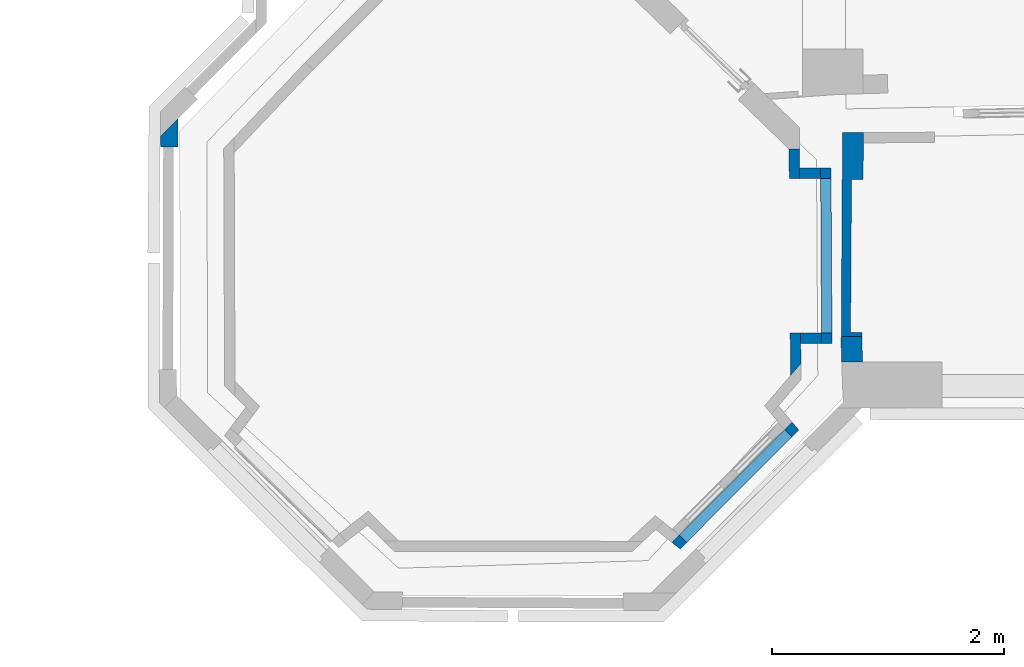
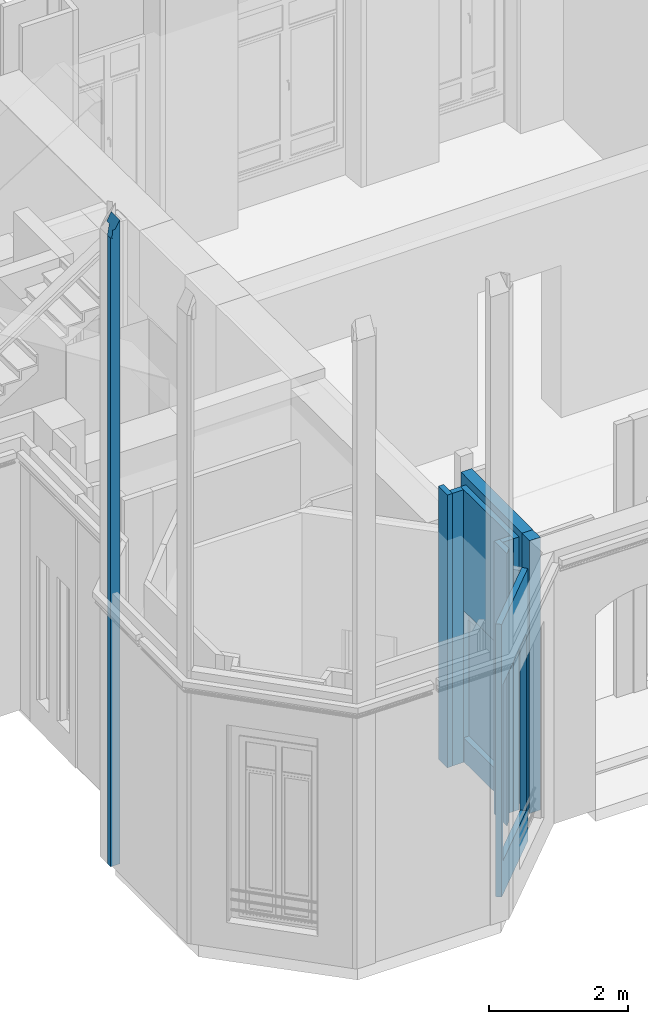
# One storey, part 5 of 97: 9 walls, 5 openings.
"""IFC2X3 building model written with IfcOpenShell, lengths in centimetres."""

import ifcopenshell
import ifcopenshell.guid

model = None  # the IFC model being written
_history = None  # IfcOwnerHistory: only IFC2X3 demands one
_inside = {}  # id of a spatial element -> (the spatial element, [elements in it])
_under = {}  # id of a project, library or spatial element -> (it, [spatial elements below it])
_declared = {}  # id of a project -> (the project, [libraries it declares])
_typed = {}  # id of a type object -> (the type object, [elements of that type])
_made_of = {}  # id of a material, layer set ... -> (it, [elements and type objects made of it])


def new_model(schema):
    """Start an empty IFC model of exactly this schema.

    Asked for "IFC4X3", IfcOpenShell would pick the latest addendum, in which some entities
    have other attributes; the version numbers below select the first issue.
    IFC2X3 requires an IfcOwnerHistory on every rooted entity: one is made here for all.
    """
    global model, _history
    if schema == "IFC4X3":
        model = ifcopenshell.file(schema_version=(4, 3, 0, 0))
    else:
        model = ifcopenshell.file(schema=schema)
    _inside.clear()
    _under.clear()
    _declared.clear()
    _typed.clear()
    _made_of.clear()
    _history = None
    if model.schema == "IFC2X3":
        org = make("IfcOrganization", Name="unknown")
        user = make(
            "IfcPersonAndOrganization",
            ThePerson=make("IfcPerson", FamilyName="unknown"),
            TheOrganization=org,
        )
        app = make(
            "IfcApplication",
            ApplicationDeveloper=org,
            Version="unknown",
            ApplicationFullName="unknown",
            ApplicationIdentifier="unknown",
        )
        _history = make(
            "IfcOwnerHistory",
            OwningUser=user,
            OwningApplication=app,
            ChangeAction="ADDED",
            CreationDate=0,
        )
    return model


def make(cls, **values):
    """One entity of the class cls with the attributes given. An attribute that is None is left unset."""
    return model.create_entity(
        cls, **{name: value for name, value in values.items() if value is not None}
    )


def entity(cls, *values):
    """Any entity or typed value of the class cls, its attributes in the order of the schema. None: left unset."""
    e = model.create_entity(cls)
    for i, value in enumerate(values):
        if value is not None:
            e[i] = value
    return e


def rooted(cls, **values):
    """An entity with a GlobalId (a new one), such as an element, a storey or a relation."""
    return make(cls, GlobalId=ifcopenshell.guid.new(), OwnerHistory=_history, **values)


def si_unit(unit_type, name, prefix=None):
    """IfcSIUnit, for example si_unit("LENGTHUNIT", "METRE", prefix="MILLI")."""
    return make("IfcSIUnit", UnitType=unit_type, Prefix=prefix, Name=name)


def converted_unit(unit_type, name, factor, base, dimensions=None, offset=None):
    """IfcConversionBasedUnit, such as the inch: factor (a typed value) times the base unit."""
    return make(
        "IfcConversionBasedUnit"
        if offset is None
        else "IfcConversionBasedUnitWithOffset",
        ConversionOffset=offset,
        Dimensions=None
        if dimensions is None
        else entity("IfcDimensionalExponents", *dimensions),
        UnitType=unit_type,
        Name=name,
        ConversionFactor=make(
            "IfcMeasureWithUnit", ValueComponent=factor, UnitComponent=base
        ),
    )


def assignment(units):
    """IfcUnitAssignment: the units of a project."""
    return None if units is None else make("IfcUnitAssignment", Units=units)


def point(xyz):
    """IfcCartesianPoint."""
    return None if xyz is None else make("IfcCartesianPoint", Coordinates=xyz)


def direction(xyz):
    """IfcDirection."""
    return None if xyz is None else make("IfcDirection", DirectionRatios=xyz)


def frame(location, z_axis=None, x_axis=None):
    """IfcAxis2Placement3D, a coordinate frame: its origin and axes. An axis left out is left unset."""
    return make(
        "IfcAxis2Placement3D",
        Location=point(location),
        Axis=direction(z_axis),
        RefDirection=direction(x_axis),
    )


def frame_2d(location, x_axis=None):
    """IfcAxis2Placement2D, a coordinate frame in the plane: its origin and x axis."""
    return make(
        "IfcAxis2Placement2D", Location=point(location), RefDirection=direction(x_axis)
    )


def origin():
    """The frame at (0, 0, 0) with its axes left unset."""
    return frame((0.0, 0.0, 0.0))


def origin_with_axes():
    """The frame at (0, 0, 0) with the z axis (0, 0, 1) and the x axis (1, 0, 0) written out."""
    return frame((0.0, 0.0, 0.0), z_axis=(0.0, 0.0, 1.0), x_axis=(1.0, 0.0, 0.0))


def origin_2d_with_axis():
    """The frame at (0, 0) in the plane with the x axis (1, 0) written out."""
    return frame_2d((0.0, 0.0), x_axis=(1.0, 0.0))


def place(relative_to, where):
    """IfcLocalPlacement: puts the frame where relative to a parent placement (None: the world)."""
    return make(
        "IfcLocalPlacement", PlacementRelTo=relative_to, RelativePlacement=where
    )


def context(
    kind, dimensions, precision=None, world=None, true_north=None, identifier=None
):
    """IfcGeometricRepresentationContext, for example the 3D "Model" context."""
    return make(
        "IfcGeometricRepresentationContext",
        ContextIdentifier=identifier,
        ContextType=kind,
        CoordinateSpaceDimension=dimensions,
        Precision=precision,
        WorldCoordinateSystem=world,
        TrueNorth=true_north,
    )


def subcontext(parent, identifier, kind, view, scale=None):
    """IfcGeometricRepresentationSubContext, for example "Body" below "Model"."""
    return make(
        "IfcGeometricRepresentationSubContext",
        ContextIdentifier=identifier,
        ContextType=kind,
        ParentContext=parent,
        TargetScale=scale,
        TargetView=view,
    )


def project(units=None, contexts=None):
    """IfcProject with its units and contexts."""
    return rooted(
        "IfcProject",
        Name="project",
        RepresentationContexts=contexts,
        UnitsInContext=assignment(units),
    )


def spatial(cls, under=None, at=None, **own):
    """A site, building, storey or space (cls), placed at a placement, below another one or the project."""
    s = rooted(cls, ObjectPlacement=at, **own)
    if under is not None:
        _under.setdefault(under.id(), (under, []))[1].append(s)
    return s


def polyline(points):
    """IfcPolyline through the points."""
    return make("IfcPolyline", Points=[point(p) for p in points])


def profile(cls, at=None, kind="AREA", **sizes):
    """A parametric profile (cls). Its sizes go by their IFC names, for example OverallWidth=200.0."""
    return make(cls, ProfileType=kind, Position=at, **sizes)


def rectangle(**sizes):
    """IfcRectangleProfileDef."""
    return profile("IfcRectangleProfileDef", **sizes)


def outline(outer, holes=None, kind="AREA"):
    """IfcArbitraryClosedProfileDef: a profile drawn as a closed curve; with holes, ...WithVoids."""
    if holes is None:
        return make("IfcArbitraryClosedProfileDef", ProfileType=kind, OuterCurve=outer)
    return make(
        "IfcArbitraryProfileDefWithVoids",
        ProfileType=kind,
        OuterCurve=outer,
        InnerCurves=holes,
    )


def extrude(swept, where, along, depth):
    """IfcExtrudedAreaSolid: the profile swept, set in the frame where, extruded along a direction by depth."""
    return make(
        "IfcExtrudedAreaSolid",
        SweptArea=swept,
        Position=where,
        ExtrudedDirection=direction(along),
        Depth=depth,
    )


def clip(a, b, op="DIFFERENCE"):
    """IfcBooleanClippingResult: the solid a cut by the half space b."""
    return make(
        "IfcBooleanClippingResult", Operator=op, FirstOperand=a, SecondOperand=b
    )


def bounded_halfspace(plane, agree, where, boundary):
    """IfcPolygonalBoundedHalfSpace: a half space limited to a polygon's prism."""
    return make(
        "IfcPolygonalBoundedHalfSpace",
        BaseSurface=make("IfcPlane", Position=plane),
        AgreementFlag=agree,
        Position=where,
        PolygonalBoundary=boundary,
    )


def faces_of(points, faces, orient=None, outer=None):
    """IfcFace entities. A face is a list of loops; a loop is a list of indices into points, from 0.

    orient and outer hold one flag for each loop. By default every Orientation is true, the
    first loop of a face is its IfcFaceOuterBound and the others are IfcFaceBound.
    """
    made = []
    for i, loops in enumerate(faces):
        bounds = []
        for j, loop in enumerate(loops):
            is_outer = j == 0 if outer is None else outer[i][j]
            bounds.append(
                make(
                    "IfcFaceOuterBound" if is_outer else "IfcFaceBound",
                    Bound=make("IfcPolyLoop", Polygon=[points[k] for k in loop]),
                    Orientation=True if orient is None else orient[i][j],
                )
            )
        made.append(make("IfcFace", Bounds=bounds))
    return made


def faceted_brep(points, faces, orient=None, outer=None, voids=None):
    """IfcFacetedBrep: a solid bounded by flat faces; with voids (closed shells), ...WithVoids."""
    shared = [point(p) for p in points]
    hull = make("IfcClosedShell", CfsFaces=faces_of(shared, faces, orient, outer))
    if voids is None:
        return make("IfcFacetedBrep", Outer=hull)
    return make(
        "IfcFacetedBrepWithVoids",
        Outer=hull,
        Voids=[
            make(cls, CfsFaces=faces_of(shared, fs, o, b)) for cls, fs, o, b in voids
        ],
    )


def shape(context_of_items, identifier, shape_type, items):
    """IfcShapeRepresentation: the items that make up one representation, for example the "Body"."""
    return make(
        "IfcShapeRepresentation",
        ContextOfItems=context_of_items,
        RepresentationIdentifier=identifier,
        RepresentationType=shape_type,
        Items=items,
    )


def material(Name=None, Category=None):
    """IfcMaterial."""
    return make("IfcMaterial", Name=Name, Category=Category)


def layer(
    of_material, thickness, ventilated=None, Name=None, Category=None, Priority=None
):
    """IfcMaterialLayer: one layer of a wall or slab, of a material (None: an air gap)."""
    return make(
        "IfcMaterialLayer",
        Material=of_material,
        LayerThickness=thickness,
        IsVentilated=ventilated,
        Name=Name,
        Category=Category,
        Priority=Priority,
    )


def layer_set(layers, Name=None):
    """IfcMaterialLayerSet."""
    return make("IfcMaterialLayerSet", MaterialLayers=layers, LayerSetName=Name)


def layer_usage(for_layer_set, set_direction, sense, offset, extent=None):
    """IfcMaterialLayerSetUsage: how a layer set lies in its element."""
    return make(
        "IfcMaterialLayerSetUsage",
        ForLayerSet=for_layer_set,
        LayerSetDirection=set_direction,
        DirectionSense=sense,
        OffsetFromReferenceLine=offset,
        ReferenceExtent=extent,
    )


def made_of(thing, what):
    """Note that an element or type object is made of a material, layer set ...; save() writes the relation."""
    if what is not None:
        _made_of.setdefault(what.id(), (what, []))[1].append(thing)
    return thing


def type_object(cls, material=None, **own):
    """A type object (cls), such as IfcWallType, which elements share."""
    return made_of(rooted(cls, **own), material)


def element(
    cls,
    number,
    at=None,
    inside=None,
    cuts=None,
    type_object=None,
    material=None,
    context=None,
    identifier="Body",
    shape_type=None,
    held_by="IfcProductDefinitionShape",
    body=None,
    shapes=None,
    **own,
):
    """One element of the class cls, such as IfcWall. Its Tag is "e" and its number.

    at: its placement. inside: the storey or other place that contains it. cuts: it is an
    opening in that element (IfcRelVoidsElement). A single representation is given by context,
    identifier, shape_type and body (its items); several are given by shapes. held_by: the class
    of the entity that holds the representations. save() writes the other relations.
    """
    e = rooted(cls, Tag="e%d" % number, ObjectPlacement=at, **own)
    if body is not None:
        shapes = [shape(context, identifier, shape_type, body)]
    if shapes is not None:
        e.Representation = make(held_by, Representations=shapes)
    if inside is not None:
        _inside.setdefault(inside.id(), (inside, []))[1].append(e)
    if cuts is not None:
        rooted(
            "IfcRelVoidsElement", RelatingBuildingElement=cuts, RelatedOpeningElement=e
        )
    if type_object is not None:
        _typed.setdefault(type_object.id(), (type_object, []))[1].append(e)
    return made_of(e, material)


def aggregate(whole, parts):
    """IfcRelAggregates: a whole, such as a stair, and the parts it consists of."""
    return rooted("IfcRelAggregates", RelatingObject=whole, RelatedObjects=parts)


def save(model, path):
    """Write the relations noted so far, then the file.

    IfcRelAggregates (storeys below a building ...), IfcRelContainedInSpatialStructure (elements
    in a storey), IfcRelDefinesByType, IfcRelAssociatesMaterial and IfcRelDeclares: one each for
    every whole, place, type object, material and project.
    """
    for whole, parts in _under.values():
        aggregate(whole, parts)
    for where, things in _inside.values():
        rooted(
            "IfcRelContainedInSpatialStructure",
            RelatedElements=things,
            RelatingStructure=where,
        )
    for kind, things in _typed.values():
        rooted("IfcRelDefinesByType", RelatedObjects=things, RelatingType=kind)
    for what, things in _made_of.values():
        rooted("IfcRelAssociatesMaterial", RelatedObjects=things, RelatingMaterial=what)
    for by, libraries in _declared.values():
        rooted("IfcRelDeclares", RelatingContext=by, RelatedDefinitions=libraries)
    model.write(path)


model = new_model("IFC2X3")

# Units and contexts
model_context = context("Model", 3, precision=0.0001, world=origin(), true_north=direction((0.225632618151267, 0.974212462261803, 0.0)))
body_context = subcontext(model_context, "Body", "Model", "MODEL_VIEW")
footprint_context = subcontext(model_context, "FootPrint", "Model", "MODEL_VIEW")
profile_context = subcontext(model_context, "Profile", "Model", "MODEL_VIEW")
ifc_project = project(units=[si_unit("LENGTHUNIT", "METRE", prefix="CENTI"), si_unit("AREAUNIT", "SQUARE_METRE", prefix="CENTI"), si_unit("VOLUMEUNIT", "CUBIC_METRE", prefix="CENTI"), converted_unit("PLANEANGLEUNIT", "DEGREE", entity("IfcRatioMeasure", 0.0174532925), si_unit("PLANEANGLEUNIT", "RADIAN"), dimensions=[0, 0, 0, 0, 0, 0, 0])], contexts=[model_context])

# Site, building, storey
site_placement = place(None, origin_with_axes())
site = spatial("IfcSite", under=ifc_project, at=site_placement, Name="Default Site", CompositionType="ELEMENT")
building_placement = place(site_placement, origin_with_axes())
building = spatial("IfcBuilding", under=site, at=building_placement, Name="Default Building", CompositionType="ELEMENT")
storey_placement = place(building_placement, origin_with_axes())
storey = spatial("IfcBuildingStorey", under=building, at=storey_placement, Name="Rez-de-chaussée", CompositionType="ELEMENT", Elevation=0.0)

# Walls
ifc_material = material(Name="<aucun>")
ifc_layer_1 = layer(ifc_material, 9.0)
ifc_layer_set_1 = layer_set([ifc_layer_1], Name="default")
ifc_layer_usage_1 = layer_usage(ifc_layer_set_1, "AXIS2", "POSITIVE", -4.5)
wall_type_1 = type_object("IfcWallType", Name="default 90", PredefinedType="NOTDEFINED", material=ifc_layer_set_1)
wall_1_placement = place(storey_placement, frame((-716.592523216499, -773.118793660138, 0.0128503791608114), z_axis=(0.0, 0.0, 1.0), x_axis=(-0.00596125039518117, 0.999982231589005, 0.0)))
element("IfcWallStandardCase", 1, at=wall_1_placement, inside=storey, type_object=wall_type_1, material=ifc_layer_usage_1, Name="Enveloppe 664477", context=body_context, shape_type="Clipping", body=[
    clip(extrude(rectangle(XDim=9.00000011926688, YDim=25.7717110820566, at=origin_2d_with_axis()), frame((12.8821925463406, 0.0, -2.71050543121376e-18), z_axis=(0.0, 0.0, 1.0), x_axis=(0.000162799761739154, -0.999999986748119, 0.0)), (0.0, 0.0, 1.0), 477.795358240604), bounded_halfspace(frame((25.5227095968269, 4.50000000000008, 397.095358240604), z_axis=(0.0, 0.0, 1.0), x_axis=(1.0, -7.74918323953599e-14, 0.0)), True, frame((25.5227095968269, 4.50000000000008, 397.095358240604), z_axis=(0.0, 0.0, 1.0), x_axis=(1.0, 0.0, 0.0)), polyline([(-8.82222604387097, -9.00000000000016), (0.0, 0.0), (0.244605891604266, 8.88178419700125e-14), (0.244605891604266, -8.99999999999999), (-8.82222604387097, -9.00000000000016)]))),
])
ifc_layer_usage_2 = layer_usage(ifc_layer_set_1, "AXIS2", "POSITIVE", -4.5)
wall_2_placement = place(storey_placement, frame((-721.117558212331, -768.650084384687, 0.0128503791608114), z_axis=(0.0, 0.0, 1.0), x_axis=(0.999981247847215, 0.00612404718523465, 0.0)))
element("IfcWallStandardCase", 2, at=wall_2_placement, inside=storey, type_object=wall_type_1, material=ifc_layer_usage_2, Name="Enveloppe 664554", context=body_context, shape_type="SweptSolid", body=[
    extrude(rectangle(XDim=18.0000002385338, YDim=9.00000011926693, at=origin_2d_with_axis()), frame((17.9983157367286, -1.77635683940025e-13, 0.0), z_axis=(0.0, 0.0, 1.0), x_axis=(1.0, -1.01429281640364e-14, 0.0)), (0.0, 0.0, 1.0), 477.795358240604),
])
ifc_layer_usage_3 = layer_usage(ifc_layer_set_1, "AXIS2", "POSITIVE", -4.5)
wall_3_placement = place(storey_placement, frame((-720.271870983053, -910.794206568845, 0.0128503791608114), z_axis=(0.0, 0.0, 1.0), x_axis=(0.999982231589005, 0.00596125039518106, 0.0)))
element("IfcWallStandardCase", 3, at=wall_3_placement, inside=storey, type_object=wall_type_1, material=ifc_layer_usage_3, Name="Enveloppe 664761", context=body_context, shape_type="SweptSolid", body=[
    extrude(rectangle(XDim=17.9999999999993, YDim=9.00000000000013, at=origin_2d_with_axis()), frame((18.0, 3.5527136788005e-13, -2.71050543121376e-18), z_axis=(0.0, 0.0, 1.0), x_axis=(1.0, 3.22658566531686e-16, 0.0)), (0.0, 0.0, 1.0), 477.795358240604),
])

# Wall, openings
ifc_layer_usage_4 = layer_usage(ifc_layer_set_1, "AXIS2", "POSITIVE", -4.5)
wall_4_placement = place(storey_placement, frame((-688.772430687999, -910.606427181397, 0.0128503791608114), z_axis=(0.0, 0.0, 1.0), x_axis=(-0.00596125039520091, 0.999982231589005, 0.0)))
wall_4 = element("IfcWallStandardCase", 4, at=wall_4_placement, inside=storey, type_object=wall_type_1, material=ifc_layer_usage_4, Name="Enveloppe 664555", context=body_context, shape_type="SweptSolid", body=[
    extrude(rectangle(XDim=8.99999999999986, YDim=151.151033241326, at=origin_2d_with_axis()), frame((71.075516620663, -1.24344978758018e-12, -2.71050543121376e-18), z_axis=(0.0, 0.0, 1.0), x_axis=(-3.9415519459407e-14, -1.0, 0.0)), (0.0, 0.0, 1.0), 477.795358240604),
])
opening_1_placement = place(wall_4_placement, frame((4.50000000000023, 0.0, 4.9960036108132e-14), z_axis=(0.0, 0.0, 1.0), x_axis=(1.0, -1.96596211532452e-14, 0.0)))
cartesian_point_1 = entity("IfcCartesianPoint", [-1.77635683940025e-13, 0.0, 43.0])
cartesian_point_2 = entity("IfcCartesianPoint", [133.151005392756, 4.4999999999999])
element("IfcOpeningElement", 5, at=opening_1_placement, cuts=wall_4, Name="Baie 41618", ObjectType="Recess", shapes=[
    shape(body_context, "Body", "Brep", [faceted_brep([(-1.72858031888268e-05, 24.4999767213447, 43.0000010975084), (133.151019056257, 24.4999767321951, 43.0000010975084), (133.151019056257, 24.4999767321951, -4.62657695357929e-10), (-1.72858031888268e-05, 24.4999767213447, -4.62657695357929e-10), (-1.72840919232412e-05, 3.49998105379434, -4.62657695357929e-10), (-1.72840919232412e-05, 3.49998105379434, 43.0000010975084), (133.151019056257, 24.500020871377, -4.62657695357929e-10), (133.151002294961, 3.49997780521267, -4.62657695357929e-10), (1.39200231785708e-05, 3.49998105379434, -4.62657695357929e-10), (133.151019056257, 24.500020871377, 43.0000010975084), (133.151019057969, 3.49997780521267, 43.0000010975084), (133.151019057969, 3.49997780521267, -4.62657695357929e-10), (1.39200231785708e-05, 3.49998105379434, 43.0000010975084), (133.151002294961, 3.49997780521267, 43.0000010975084), (133.151002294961, 3.49998106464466, -4.62657695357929e-10), (133.151002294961, 3.49998106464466, 43.0000010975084)], [[[0, 1, 2, 3]], [[3, 4, 5, 0]], [[6, 7, 8, 3]], [[9, 10, 11, 6]], [[0, 12, 13, 9]], [[12, 8, 14, 15]]])]),
    shape(profile_context, "Profile", "GeometricCurveSet", [entity("IfcGeometricCurveSet", [entity("IfcPolyline", [cartesian_point_1, entity("IfcCartesianPoint", [-1.77635683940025e-13, 0.0, 0.0]), entity("IfcCartesianPoint", [133.151005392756, 0.0, 0.0]), entity("IfcCartesianPoint", [133.151005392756, 0.0, 43.0]), cartesian_point_1])])]),
    shape(footprint_context, "FootPrint", "GeometricCurveSet", [entity("IfcGeometricCurveSet", [entity("IfcPolyline", [cartesian_point_2, entity("IfcCartesianPoint", [-1.77635683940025e-13, 4.4999999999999]), entity("IfcCartesianPoint", [0.0, -4.49999999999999]), entity("IfcCartesianPoint", [133.151005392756, -4.49999999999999]), cartesian_point_2])])]),
])
opening_2_placement = place(wall_4_placement, frame((4.50002772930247, -1.13686837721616e-13, 43.1712593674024), z_axis=(0.0, 0.0, 1.0), x_axis=(1.0, -1.96587537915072e-14, 0.0)))
cartesian_point_3 = entity("IfcCartesianPoint", [-1.77635683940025e-13, 0.0, 222.65721376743])
cartesian_point_4 = entity("IfcCartesianPoint", [133.151005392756, 4.50000000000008])
element("IfcOpeningElement", 6, at=opening_2_placement, cuts=wall_4, Name="4294966457_11", ObjectType="Opening", shapes=[
    shape(body_context, "Body", "SweptSolid", [extrude(outline(polyline([(-3.5527136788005e-13, 222.65721376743), (-3.5527136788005e-13, 0.0), (133.151005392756, 0.0), (133.151005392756, 222.65721376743), (-3.5527136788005e-13, 222.65721376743)])), frame((0.0, 14.5, 0.0), z_axis=(0.0, -1.0, 0.0), x_axis=(1.0, 0.0, 0.0)), (0.0, 0.0, 1.0), 29.0)]),
    shape(profile_context, "Profile", "GeometricCurveSet", [entity("IfcGeometricCurveSet", [entity("IfcPolyline", [cartesian_point_3, entity("IfcCartesianPoint", [-1.77635683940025e-13, 0.0, 0.0]), entity("IfcCartesianPoint", [133.151005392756, 0.0, 0.0]), entity("IfcCartesianPoint", [133.151005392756, 0.0, 222.65721376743]), cartesian_point_3])])]),
    shape(footprint_context, "FootPrint", "GeometricCurveSet", [entity("IfcGeometricCurveSet", [entity("IfcPolyline", [cartesian_point_4, entity("IfcCartesianPoint", [-3.5527136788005e-13, 4.49999999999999]), entity("IfcCartesianPoint", [-1.77635683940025e-13, -4.49999999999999]), entity("IfcCartesianPoint", [133.151005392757, -4.4999999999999]), cartesian_point_4])])]),
])

# Wall
ifc_layer_usage_5 = layer_usage(ifc_layer_set_1, "AXIS2", "POSITIVE", -4.5)
wall_5_placement = place(storey_placement, frame((-715.580049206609, -942.958332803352, 0.0128503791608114), z_axis=(0.0, 0.0, 1.0), x_axis=(-0.00596125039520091, 0.999982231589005, 0.0)))
element("IfcWallStandardCase", 7, at=wall_5_placement, inside=storey, type_object=wall_type_1, material=ifc_layer_usage_5, Name="Enveloppe 664708", context=body_context, shape_type="SweptSolid", body=[
    extrude(outline(polyline([(36.6915238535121, 4.49999999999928), (0.00285041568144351, 4.49999999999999), (10.360681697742, -4.50000000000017), (36.6915238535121, -4.50000000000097), (36.6915238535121, 4.49999999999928)])), frame((0.0, 0.0, -2.71050543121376e-18), z_axis=(0.0, 0.0, 1.0), x_axis=(1.0, 0.0, 0.0)), (0.0, 0.0, 1.0), 477.795358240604),
])

# Wall, openings
ifc_layer_usage_6 = layer_usage(ifc_layer_set_1, "AXIS2", "POSITIVE", -4.5)
wall_6_placement = place(storey_placement, frame((-815.548598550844, -1086.26791994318, 0.0128503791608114), z_axis=(0.0, 0.0, 1.0), x_axis=(0.70648067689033, 0.707732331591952, 0.0)))
wall_6 = element("IfcWallStandardCase", 8, at=wall_6_placement, inside=storey, type_object=wall_type_1, material=ifc_layer_usage_6, Name="Enveloppe 7228", context=body_context, shape_type="SweptSolid", body=[
    extrude(outline(polyline([(-5.02731083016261, 4.50000000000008), (-4.02799840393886, -4.4999999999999), (140.7784894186, -4.50000000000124), (141.545997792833, 4.49999999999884), (-5.02731083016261, 4.50000000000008)])), origin_with_axes(), (0.0, 0.0, 1.0), 477.795358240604),
])
opening_3_placement = place(wall_6_placement, frame((8.17870308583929, 1.13686837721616e-13, 4.99583013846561e-14), z_axis=(0.0, 0.0, 1.0), x_axis=(1.0, -7.99360577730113e-15, 0.0)))
cartesian_point_5 = entity("IfcCartesianPoint", [-1.77635683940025e-13, -1.77635683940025e-13, 54.9])
cartesian_point_6 = entity("IfcCartesianPoint", [126.0, 4.4999999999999])
element("IfcOpeningElement", 9, at=opening_3_placement, cuts=wall_6, Name="Baie 41617", ObjectType="Recess", shapes=[
    shape(body_context, "Body", "Brep", [faceted_brep([(2.27199032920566e-05, 24.4999719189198, 54.9000028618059), (125.999997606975, 24.4999704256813, 54.9000028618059), (125.999997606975, 24.4999704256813, -4.62657695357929e-10), (2.27199032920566e-05, 24.4999719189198, -4.62657695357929e-10), (2.2471030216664e-05, 3.49997614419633, -4.62657695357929e-10), (2.2471030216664e-05, 3.49997614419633, 54.9000028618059), (125.999997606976, 24.4999926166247, -4.62657695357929e-10), (125.999989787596, 3.49996309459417, -4.62657695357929e-10), (-1.87871000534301e-05, 3.49997614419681, -4.62657695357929e-10), (125.999997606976, 24.4999926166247, 54.9000028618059), (125.999997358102, 3.49996309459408, 54.9000028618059), (125.999997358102, 3.49996309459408, -4.62657695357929e-10), (-1.87871000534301e-05, 3.49997614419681, 54.9000028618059), (125.999989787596, 3.49996309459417, 54.9000028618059), (125.999989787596, 3.49997465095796, -4.62657695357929e-10), (125.999989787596, 3.49997465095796, 54.9000028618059)], [[[0, 1, 2, 3]], [[3, 4, 5, 0]], [[6, 7, 8, 3]], [[9, 10, 11, 6]], [[0, 12, 13, 9]], [[12, 8, 14, 15]]])]),
    shape(profile_context, "Profile", "GeometricCurveSet", [entity("IfcGeometricCurveSet", [entity("IfcPolyline", [cartesian_point_5, entity("IfcCartesianPoint", [-1.77635683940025e-13, -1.77635683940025e-13, 0.0]), entity("IfcCartesianPoint", [126.0, -1.77635683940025e-13, 0.0]), entity("IfcCartesianPoint", [126.0, -1.77635683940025e-13, 54.9]), cartesian_point_5])])]),
    shape(footprint_context, "FootPrint", "GeometricCurveSet", [entity("IfcGeometricCurveSet", [entity("IfcPolyline", [cartesian_point_6, entity("IfcCartesianPoint", [-1.77635683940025e-13, 4.4999999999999]), entity("IfcCartesianPoint", [-1.77635683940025e-13, -4.50000000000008]), entity("IfcCartesianPoint", [126.0, -4.50000000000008]), cartesian_point_6])])]),
])
opening_4_placement = place(wall_6_placement, frame((4.02799840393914, 1.13686837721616e-13, 59.0202325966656), z_axis=(0.0, 0.0, 1.0), x_axis=(1.0, -7.99360577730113e-15, 0.0)))
cartesian_point_7 = entity("IfcCartesianPoint", [-1.77635683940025e-13, -1.77635683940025e-13, 309.0])
cartesian_point_8 = entity("IfcCartesianPoint", [128.38810224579, 4.4999999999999])
element("IfcOpeningElement", 10, at=opening_4_placement, cuts=wall_6, Name="4294966452_11", ObjectType="Opening", shapes=[
    shape(body_context, "Body", "SweptSolid", [extrude(outline(polyline([(-1.77635683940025e-13, 309.0), (-1.77635683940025e-13, 0.0), (128.38810224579, 0.0), (128.38810224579, 309.0), (-1.77635683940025e-13, 309.0)])), frame((0.0, 14.5, 0.0), z_axis=(0.0, -1.0, 0.0), x_axis=(1.0, 0.0, 0.0)), (0.0, 0.0, 1.0), 29.0)]),
    shape(profile_context, "Profile", "GeometricCurveSet", [entity("IfcGeometricCurveSet", [entity("IfcPolyline", [cartesian_point_7, entity("IfcCartesianPoint", [-1.77635683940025e-13, -1.77635683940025e-13, 0.0]), entity("IfcCartesianPoint", [128.38810224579, 0.0, 0.0]), entity("IfcCartesianPoint", [128.38810224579, -8.88178419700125e-14, 309.0]), cartesian_point_7])])]),
    shape(footprint_context, "FootPrint", "GeometricCurveSet", [entity("IfcGeometricCurveSet", [entity("IfcPolyline", [cartesian_point_8, entity("IfcCartesianPoint", [-1.77635683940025e-13, 4.4999999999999]), entity("IfcCartesianPoint", [-1.77635683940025e-13, -4.50000000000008]), entity("IfcCartesianPoint", [128.38810224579, -4.49999999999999]), cartesian_point_8])])]),
])

# Walls
ifc_layer_2 = layer(ifc_material, 15.0)
ifc_layer_set_2 = layer_set([ifc_layer_2], Name="default")
ifc_layer_usage_7 = layer_usage(ifc_layer_set_2, "AXIS2", "POSITIVE", -7.5)
wall_type_2 = type_object("IfcWallType", Name="default 150", PredefinedType="NOTDEFINED", material=ifc_layer_set_2)
wall_7_placement = place(storey_placement, frame((-1255.55988231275, -745.904694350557, 0.0128503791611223), z_axis=(0.0, 0.0, 1.0), x_axis=(-0.0013131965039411, 0.999999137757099, 0.0)))
solid = clip(clip(clip(clip(clip(clip(clip(clip(extrude(outline(polyline([(9.4516035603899, 7.49999999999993), (-1.77635683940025e-13, 7.49999999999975), (0.000722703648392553, 5.17090224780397), (-0.0585483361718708, 5.17098008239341), (-0.0999958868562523, -4.37978153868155), (-8.88178419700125e-14, -4.37991285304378), (-1.77635683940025e-13, -7.49999999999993), (24.2952940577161, -7.50079605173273), (24.2952951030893, -0.0283930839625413), (16.8653951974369, 0.00813894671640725), (9.4516035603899, 7.49999999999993)])), frame((0.0, 0.0, -2.71050543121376e-18), z_axis=(0.0, 0.0, 1.0), x_axis=(1.0, 0.0, 0.0)), (0.0, 0.0, 1.0), 1127.79141089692), bounded_halfspace(frame((-1.77635683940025e-13, -3.82919225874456, 477.795358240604), z_axis=(0.0, 0.0, 1.0), x_axis=(-0.999989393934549, 0.00460565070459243, 0.0)), True, frame((-1.77635683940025e-13, -3.82919225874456, 477.795358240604), z_axis=(0.0, 0.0, 1.0), x_axis=(1.0, 0.0, 0.0)), polyline([(-0.0999989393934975, 0.000460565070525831), (8.88178419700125e-14, 8.4497556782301), (-8.88178419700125e-14, 0.0), (-0.0999989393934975, 0.000460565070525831)]))), bounded_halfspace(frame((-8.88178419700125e-14, 4.62056341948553, 477.795358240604), z_axis=(0.0, 0.0, 1.0), x_axis=(-0.999947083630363, 0.0102873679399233, 0.0)), True, frame((-8.88178419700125e-14, 4.62056341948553, 477.795358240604), z_axis=(0.0, 0.0, 1.0), x_axis=(1.0, 0.0, 0.0)), polyline([(-0.0610811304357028, 0.000628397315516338), (-0.0585480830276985, 0.55060943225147), (0.0, 0.550339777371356), (0.0, 0.0), (-0.0610811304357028, 0.000628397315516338)]))), bounded_halfspace(frame((-0.0532532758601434, 0.120989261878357, 477.795358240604), z_axis=(0.0, 0.0, 1.0), x_axis=(-0.0118343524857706, -0.999929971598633, 0.0)), True, frame((-0.0532532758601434, 0.120989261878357, 477.795358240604), z_axis=(0.0, 0.0, 1.0), x_axis=(1.0, 0.0, 0.0)), polyline([(-0.0467456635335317, -3.94972095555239), (-0.00782785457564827, 4.50020255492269), (0.0532532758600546, 4.49957415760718), (-0.0467456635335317, -3.94972095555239)]))), bounded_halfspace(frame((-0.0999947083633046, -4.37888411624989, 853.897523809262), z_axis=(0.0, 0.0, 1.0), x_axis=(-7.690651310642e-06, 0.999999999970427, 0.0)), True, frame((-0.0999947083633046, -4.37888411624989, 853.897523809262), z_axis=(0.0, 0.0, 1.0), x_axis=(1.0, 0.0, 0.0)), polyline([(-8.88178419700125e-14, -1.77635683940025e-13), (0.00565965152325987, 0.550126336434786), (0.0999947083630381, 0.54969185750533), (0.0999947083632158, -0.00102873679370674), (-8.88178419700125e-14, -1.77635683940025e-13)]))), bounded_halfspace(frame((24.2952951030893, -5.86268768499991, 1114.05084405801), z_axis=(0.0, 0.0, 1.0), x_axis=(3.48128643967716e-14, -1.0, 0.0)), True, frame((24.2952951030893, -5.86268768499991, 1114.05084405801), z_axis=(0.0, 0.0, 1.0), x_axis=(1.0, 0.0, 0.0)), polyline([(-0.441145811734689, -1.1915211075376), (0.0, 0.0), (-8.88178419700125e-14, -1.63731231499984), (-0.441145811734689, -1.1915211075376)]))), bounded_halfspace(frame((24.2952951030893, -0.0283930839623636, 1114.05084405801), z_axis=(0.0, 0.0, 1.0), x_axis=(1.67704392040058e-15, -1.0, 0.0)), True, frame((24.2952951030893, -0.0283930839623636, 1114.05084405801), z_axis=(0.0, 0.0, 1.0), x_axis=(1.0, 0.0, 0.0)), polyline([(-7.42989990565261, 0.0365320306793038), (0.0, 1.77635683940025e-13), (0.0, -5.83429460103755), (-0.441145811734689, -7.02581570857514), (-7.42989990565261, 0.0365320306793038)]))), bounded_halfspace(frame((23.6891006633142, -7.49999999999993, 1127.58057653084), z_axis=(-0.00430374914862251, -0.875298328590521, -0.483564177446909), x_axis=(-0.175995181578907, -0.475357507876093, 0.862009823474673)), True, frame((23.6891006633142, -7.49999999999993, 1127.58057653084), z_axis=(0.0, 0.0, 1.0), x_axis=(1.0, 0.0, 0.0)), polyline([(0.0, 1.77635683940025e-13), (0.60619443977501, 1.77635683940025e-13), (0.165048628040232, 0.44579120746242), (0.0, 1.77635683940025e-13)]))), bounded_halfspace(frame((-8.88178419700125e-14, 5.17090319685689, 1104.85584017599), z_axis=(-0.00430374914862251, -0.875298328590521, -0.483564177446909), x_axis=(-0.432964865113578, 0.437524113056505, -0.788107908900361)), True, frame((-8.88178419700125e-14, 5.17090319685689, 1104.85584017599), z_axis=(0.0, 0.0, 1.0), x_axis=(1.0, 0.0, 0.0)), polyline([(0.0, 0.0), (11.8102575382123, -0.054394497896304), (9.45160356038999, 2.32909680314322), (-1.77635683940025e-13, 2.32909680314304), (0.0, 0.0)])))
element("IfcWallStandardCase", 11, at=wall_7_placement, inside=storey, type_object=wall_type_2, material=ifc_layer_usage_7, Name="Enveloppe 375184", context=body_context, shape_type="Clipping", body=[
    clip(clip(clip(clip(clip(clip(clip(clip(solid, bounded_halfspace(frame((-1.77635683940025e-13, -7.49999999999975, 1127.79141089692), z_axis=(-0.00430374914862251, -0.875298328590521, -0.483564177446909), x_axis=(3.11274443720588e-15, -0.48356865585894, 0.87530643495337)), True, frame((-1.77635683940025e-13, -7.49999999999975, 1127.79141089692), z_axis=(0.0, 0.0, 1.0), x_axis=(1.0, 0.0, 0.0)), polyline([(0.0, 0.0), (23.6891006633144, 0.0), (23.8541492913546, 0.445791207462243), (11.8102575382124, 12.6165086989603), (8.88178419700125e-14, 12.6709031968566), (0.0, 0.0)]))), bounded_halfspace(frame((-8.88178419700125e-14, 4.62056341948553, 1105.85200885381), z_axis=(-0.00430374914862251, -0.875298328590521, -0.483564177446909), x_axis=(-0.999989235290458, 0.00460564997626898, 0.000563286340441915)), True, frame((-8.88178419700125e-14, 4.62056341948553, 1105.85200885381), z_axis=(0.0, 0.0, 1.0), x_axis=(1.0, 0.0, 0.0)), polyline([(-0.0610811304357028, 0.000628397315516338), (0.0, 0.0), (0.0, 0.550339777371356), (-0.0585480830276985, 0.55060943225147), (-0.0610811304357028, 0.000628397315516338)]))), bounded_halfspace(frame((-0.0999989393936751, -3.82873169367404, 1121.14694715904), z_axis=(-0.00430374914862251, -0.875298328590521, -0.483564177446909), x_axis=(-0.99989983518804, 0.0102868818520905, -0.00972109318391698)), True, frame((-0.0999989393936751, -3.82873169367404, 1121.14694715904), z_axis=(0.0, 0.0, 1.0), x_axis=(1.0, 0.0, 0.0)), polyline([(0.0, 0.0), (0.0999989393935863, 8.44929511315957), (0.0389178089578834, 8.44992351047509), (0.0, 0.0)]))), bounded_halfspace(frame((-8.88178419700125e-14, -4.3799128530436, 1122.143748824), z_axis=(-0.00430374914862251, -0.875298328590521, -0.483564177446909), x_axis=(-6.36906976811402e-14, 0.483568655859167, -0.875306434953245)), True, frame((-8.88178419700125e-14, -4.3799128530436, 1122.143748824), z_axis=(0.0, 0.0, 1.0), x_axis=(1.0, 0.0, 0.0)), polyline([(-0.0999947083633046, 0.00102873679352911), (0.0, 0.0), (-1.77635683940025e-13, 0.550720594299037), (-0.0999989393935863, 0.551181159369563), (-0.0999947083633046, 0.00102873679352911)]))), bounded_halfspace(frame((-8.88178419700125e-14, 4.62056341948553, 1113.99714962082), z_axis=(0.0, 0.0, -1.0), x_axis=(-0.011834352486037, -0.99992997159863, 0.0)), True, frame((-8.88178419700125e-14, 4.62056341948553, 1113.99714962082), z_axis=(0.0, 0.0, 1.0), x_axis=(1.0, 0.0, 0.0)), polyline([(-0.0999989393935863, -8.44929511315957), (-1.77635683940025e-13, -8.4497556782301), (0.0, 0.0), (-0.0999989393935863, -8.44929511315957)]))), bounded_halfspace(frame((23.8541492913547, -7.05420879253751, 1127.78749707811), z_axis=(-0.624319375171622, -0.614031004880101, -0.482898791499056), x_axis=(0.703382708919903, -0.710789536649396, -0.00556770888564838)), True, frame((23.8541492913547, -7.05420879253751, 1127.78749707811), z_axis=(0.0, 0.0, 1.0), x_axis=(1.0, 0.0, 0.0)), polyline([(-8.88178419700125e-14, 0.0), (0.441145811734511, -0.445791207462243), (0.4411458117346, 1.1915211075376), (-8.88178419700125e-14, 0.0)]))), bounded_halfspace(frame((23.8541492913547, -7.05420879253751, 1126.77218202), z_axis=(-0.00430374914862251, -0.875298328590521, -0.483564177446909), x_axis=(0.432964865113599, -0.437524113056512, 0.788107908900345)), True, frame((23.8541492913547, -7.05420879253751, 1126.77218202), z_axis=(0.0, 0.0, 1.0), x_axis=(1.0, 0.0, 0.0)), polyline([(-6.98875409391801, 7.06234773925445), (-8.88178419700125e-14, 0.0), (0.4411458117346, 1.1915211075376), (0.4411458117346, 7.02581570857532), (-6.98875409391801, 7.06234773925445)]))), bounded_halfspace(frame((-0.0999989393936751, -3.82873169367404, 1121.14694715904), z_axis=(-0.00430374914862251, -0.875298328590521, -0.483564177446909), x_axis=(-0.0057227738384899, -0.483539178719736, 0.875304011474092)), True, frame((-0.0999989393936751, -3.82873169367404, 1121.14694715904), z_axis=(0.0, 0.0, 1.0), x_axis=(1.0, 0.0, 0.0)), polyline([(0.00566388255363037, -2.60861410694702e-05), (0.0999989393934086, -0.000460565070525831), (0.0999989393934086, 3.89828723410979), (0.0461400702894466, 3.89855205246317), (0.00566388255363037, -2.60861410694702e-05)]))),
])
ifc_layer_3 = layer(ifc_material, 18.0)
ifc_layer_set_3 = layer_set([ifc_layer_3], Name="default")
ifc_layer_usage_8 = layer_usage(ifc_layer_set_3, "AXIS2", "POSITIVE", -9.0)
wall_type_3 = type_object("IfcWallType", Name="default 180", PredefinedType="NOTDEFINED", material=ifc_layer_set_3)
wall_8_placement = place(storey_placement, frame((-666.858716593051, -931.186131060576, 0.0128503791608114), z_axis=(0.0, 0.0, 1.0), x_axis=(-0.0354785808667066, 0.999370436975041, 0.0)))
element("IfcWallStandardCase", 12, at=wall_8_placement, inside=storey, type_object=wall_type_3, material=ifc_layer_usage_8, Name="Enveloppe 377929", context=body_context, shape_type="SweptSolid", body=[
    extrude(outline(polyline([(13.9788611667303, 9.00000000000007), (0.3915691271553, 9.00000000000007), (-0.258784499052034, -9.00005154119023), (21.6124586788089, -8.99999999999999), (22.3508449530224, 8.64975387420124), (13.9788611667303, 9.00000000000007)])), origin_with_axes(), (0.0, 0.0, 1.0), 477.795358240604),
])

# Wall, opening
ifc_layer_usage_9 = layer_usage(ifc_layer_set_3, "AXIS2", "POSITIVE", -9.0)
wall_9_placement = place(storey_placement, frame((-667.296181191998, -909.2131637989, 0.0128503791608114), z_axis=(0.0, 0.0, 1.0), x_axis=(0.00632504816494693, 0.999979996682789, 0.0)))
wall_9 = element("IfcWallStandardCase", 13, at=wall_9_placement, inside=storey, type_object=wall_type_3, material=ifc_layer_usage_9, Name="Enveloppe 378348", context=body_context, shape_type="SweptSolid", body=[
    extrude(outline(polyline([(0.0, 8.99999999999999), (1.77635683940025e-13, -8.66519250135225), (-8.0029520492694, -9.00000000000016), (176.091700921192, -8.99999999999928), (175.950691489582, 9.0000000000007), (0.0, 8.99999999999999)])), origin_with_axes(), (0.0, 0.0, 1.0), 477.795358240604),
])
opening_5_placement = place(wall_9_placement, frame((3.43710750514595, -1.13686837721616e-13, -1.73472347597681e-18), z_axis=(0.0, 0.0, 1.0), x_axis=(-1.0, -4.30211422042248e-15, 0.0)))
cartesian_point_9 = entity("IfcCartesianPoint", [0.0, -8.88178419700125e-14, 261.0])
cartesian_point_10 = entity("IfcCartesianPoint", [-132.029076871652, -9.00000000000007])
element("IfcOpeningElement", 14, at=opening_5_placement, cuts=wall_9, Name="Baie 379793", ObjectType="Recess", shapes=[
    shape(body_context, "Body", "Brep", [faceted_brep([(-4.07538063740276e-05, 29.0000177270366, -4.62607738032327e-10), (-132.029068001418, 29.0000177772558, -4.62607738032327e-10), (-132.029068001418, 29.0000177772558, 260.999989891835), (-4.07538063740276e-05, 29.0000177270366, 260.999989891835), (-4.07652173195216e-05, -0.999981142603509, 260.999989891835), (-4.07652173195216e-05, -0.999981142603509, -4.62607738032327e-10), (2.48637716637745e-05, -0.999981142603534, -4.62607738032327e-10), (-132.029097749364, -0.9999867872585, -4.62607738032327e-10), (-132.029068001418, 29.0000126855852, -4.62607738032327e-10), (-132.029068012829, -0.999986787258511, -4.62607738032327e-10), (-132.029068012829, -0.999986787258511, 260.999989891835), (-132.029068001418, 29.0000126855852, 260.999989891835), (-132.029097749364, -0.9999867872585, 260.999989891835), (2.48637716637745e-05, -0.999981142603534, 260.999989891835), (2.48637716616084e-05, -0.999986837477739, -4.62607738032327e-10), (2.48637716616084e-05, -0.999986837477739, 260.999989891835)], [[[0, 1, 2, 3]], [[3, 4, 5, 0]], [[0, 6, 7, 8]], [[8, 9, 10, 11]], [[11, 12, 13, 3]], [[12, 7, 14, 15]]])]),
    shape(profile_context, "Profile", "GeometricCurveSet", [entity("IfcGeometricCurveSet", [entity("IfcPolyline", [cartesian_point_9, entity("IfcCartesianPoint", [0.0, -8.88178419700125e-14, -2.71050543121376e-18]), entity("IfcCartesianPoint", [-132.029076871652, -8.88178419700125e-14, -2.71050543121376e-18]), entity("IfcCartesianPoint", [-132.029076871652, -8.88178419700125e-14, 261.0]), cartesian_point_9])])]),
    shape(footprint_context, "FootPrint", "GeometricCurveSet", [entity("IfcGeometricCurveSet", [entity("IfcPolyline", [cartesian_point_10, entity("IfcCartesianPoint", [1.77635683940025e-13, -9.00000000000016]), entity("IfcCartesianPoint", [0.0, 8.9999999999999]), entity("IfcCartesianPoint", [-132.029076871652, 8.9999999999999]), cartesian_point_10])])]),
])

save(model, "model.ifc")
